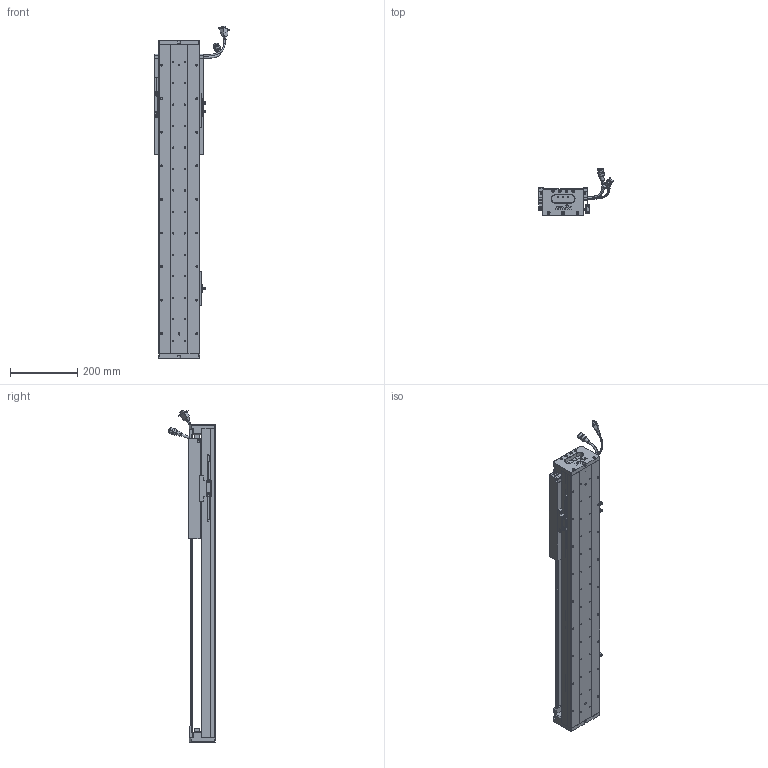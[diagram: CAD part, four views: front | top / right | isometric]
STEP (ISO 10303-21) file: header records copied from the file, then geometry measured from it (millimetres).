
FILE_DESCRIPTION (( 'STEP AP203' ), '1' );
FILE_NAME ('Z4-RY120D-1-L500-B-K.SLDASM_0550.step', '2021-05-17T06:06:13', ( '盈信电脑' ), ( '东莞市道滘镇水果街19号' ), 'SwSTEP 2.0', 'SolidWorks 2016', '' );
FILE_SCHEMA (( 'CONFIG_CONTROL_DESIGN' ));
Length unit declared in the file: millimetre
Products named in the file (37): SCREW-M1.6-3; Z4-RY120铝滑块（21款）; HOLDER0; COVER; HARNESS; SCREW-M1.6-2; SCREW-M1.7-1; SEAL-Part-1; Z4-RY120-L500詩湍100mm遵_0550; SCREW-M1.6-1; SCALE-Part-2; SCALE; 080黍杅芛假蚾釱21遴; PBU_SHEET; Z-RY120D詩湍狟揤裔; SHIELDPLATE; Z-120詩湍傷裔啣; 榋妏寠巭燃_暯_M2_2; HARNESS-Part-1; 覜茼ん672; HARNESS-Part-2; SCREW-M1.7; Z4-RY120-500-倰第菁釱_0550; RY100FB-遵嫖萇覜茼え; 672嫖萇羲壽假蚾釱; 140蚥薯蝶輸; SCALE-Part-1; Z-RY120D詩湍奻揤裔; COVER-Part-1; 140雄赽晤鎢ん堤盄; LABEL; SEAL; 120-Z-臏賑輸盄裔(21遴); SCREW-M1.6; Z4-RY120D-1-L500-B-K.SLDASM_0550; LABEL-Part-1; PSLH080_PSLF2
Assembly tree (43 placements, depth 4):
  Z4-RY120D-1-L500-B-K.SLDASM_0550
    Z4-RY120-500-倰第菁釱_0550
    覜茼ん672  x3
    672嫖萇羲壽假蚾釱  x2
    Z4-RY120铝滑块（21款）
    PSLH080_PSLF2
      SCALE
        SCALE-Part-1
        SCALE-Part-2
      HARNESS
        HARNESS-Part-1
        HARNESS-Part-2
      LABEL
        LABEL-Part-1
      COVER
        COVER-Part-1
      SEAL
        SEAL-Part-1
      榋妏寠巭燃_暯_M2_2
      SHIELDPLATE
      SCREW-M1.7
      SCREW-M1.7-1
      PBU_SHEET
      SCREW-M1.6
      SCREW-M1.6-1
      SCREW-M1.6-2
      SCREW-M1.6-3
      HOLDER0
    080黍杅芛假蚾釱21遴
    120-Z-臏賑輸盄裔(21遴)
    140雄赽晤鎢ん堤盄
    140蚥薯蝶輸  x2
    RY100FB-遵嫖萇覜茼え
    Z-120詩湍傷裔啣  x2
    Z-RY120D詩湍奻揤裔  x2
    Z-RY120D詩湍狟揤裔  x2
    Z4-RY120-L500詩湍100mm遵_0550
Bounding box: 222.88 x 140.94 x 989 mm (x, y, z)
Volume: 3063054.3 mm3; surface area: 980664.4 mm2
Topology: 38 solids, 38 shells, 2761 faces, 7422 edges, 4686 vertices
Faces by surface type: cylinder 1252, plane 1113, cone 274, torus 69, bspline 53
Entity records: 82093 total; most frequent: CARTESIAN_POINT 21538, ORIENTED_EDGE 11820, DIRECTION 11718, EDGE_CURVE 5910, AXIS2_PLACEMENT_3D 4288, VERTEX_POINT 3806, LINE 3142, VECTOR 3142
